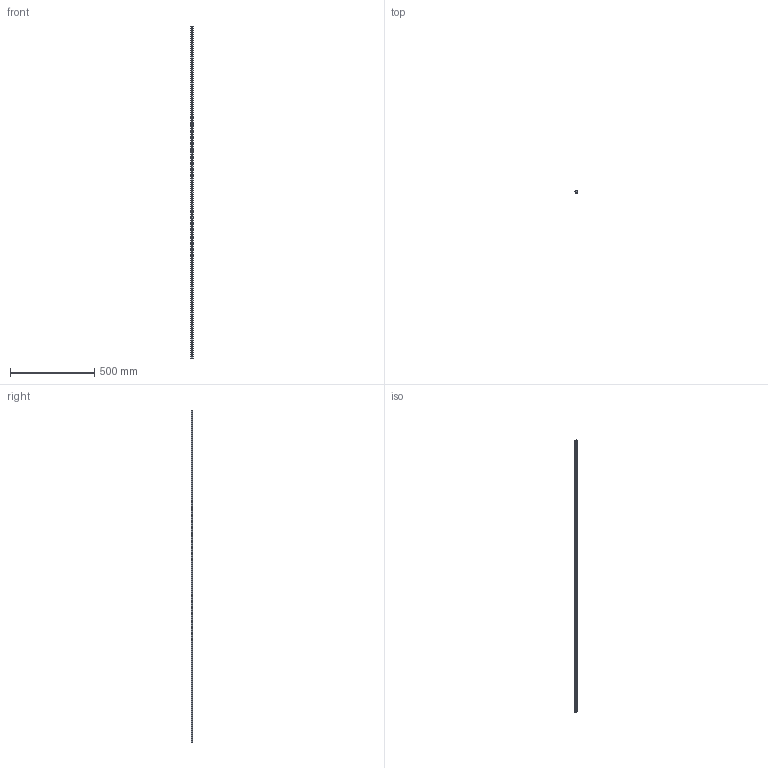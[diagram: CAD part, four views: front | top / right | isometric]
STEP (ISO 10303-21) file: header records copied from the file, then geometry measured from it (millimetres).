
FILE_DESCRIPTION(('STEP AP203'),'1');
FILE_NAME('slide_nvel1976p2.stp','2022-07-04T01:17:25',('TraceParts'),('TraceParts S.A.'),'Spatial InterOp 3D',' ',' ');
FILE_SCHEMA(('CONFIG_CONTROL_DESIGN'));
Length unit declared in the file: millimetre
Products named in the file (1): 1
Bounding box: 15.82 x 10.41 x 1976 mm (x, y, z)
Volume: 245942.1 mm3; surface area: 109126.2 mm2
Topology: 1 solids, 1 shells, 199 faces, 591 edges, 394 vertices
Faces by surface type: plane 101, cylinder 98
Entity records: 6941 total; most frequent: DIRECTION 1275, CARTESIAN_POINT 1185, ORIENTED_EDGE 1182, EDGE_CURVE 591, AXIS2_PLACEMENT_3D 484, VERTEX_POINT 394, LINE 307, VECTOR 307
